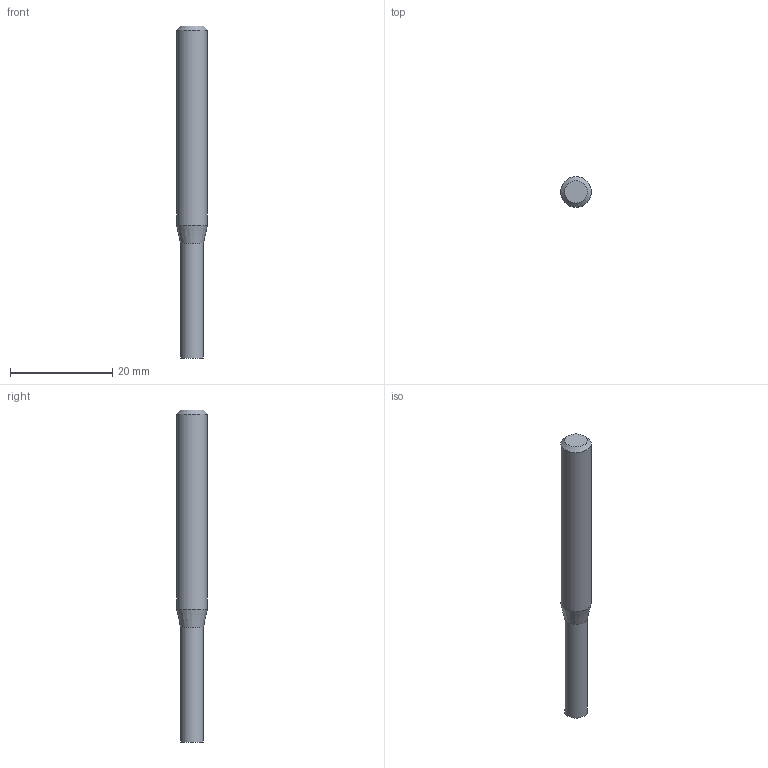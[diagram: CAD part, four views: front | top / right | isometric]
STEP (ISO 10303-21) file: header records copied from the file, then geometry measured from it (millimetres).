
FILE_DESCRIPTION((''),'2;1');
FILE_NAME('C:\Users\nsx150\AppData\Local\Temp\Mastercam 2021\E36A1X9CCL\TEMP.step','2023-04-21T15:28:15',(''),(''),'STEP Write','Mastercam 2021 ... CNC Software, Inc.','');
FILE_SCHEMA(('AUTOMOTIVE_DESIGN'));
Length unit declared in the file: millimetre
Products named in the file (1): None
Bounding box: 6 x 6 x 65 mm (x, y, z)
Volume: 1531.1 mm3; surface area: 1178.5 mm2
Topology: 2 solids, 2 shells, 8 faces, 10 edges, 6 vertices
Faces by surface type: plane 4, cylinder 2, cone 2
Full cylindrical faces by diameter (mm): 4.5 x1, 6 x1
Entity records: 190 total; most frequent: DIRECTION 32, CARTESIAN_POINT 22, AXIS2_PLACEMENT_3D 16, ORIENTED_EDGE 12, EDGE_LOOP 12, STYLED_ITEM 11, ADVANCED_FACE 8, VERTEX_POINT 6
